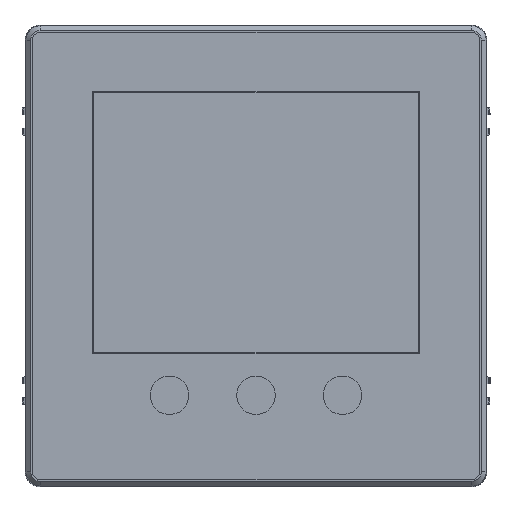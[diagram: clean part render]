
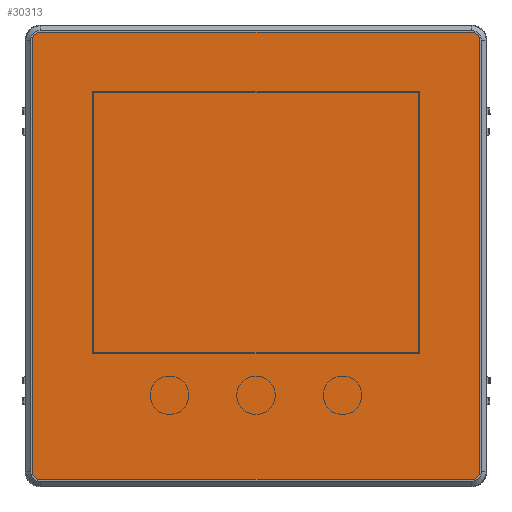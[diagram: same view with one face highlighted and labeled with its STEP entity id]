
A CAD part, top view. The second image highlights one B-rep face of the part: STEP entity #30313.
In plain terms, the highlighted planar face has unit normal (0, 0, 1).
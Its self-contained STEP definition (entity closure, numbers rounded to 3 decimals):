
#409 = VERTEX_POINT ( 'NONE', #1434 ) ;
#413 = VERTEX_POINT ( 'NONE', #1436 ) ;
#421 = VERTEX_POINT ( 'NONE', #1386 ) ;
#441 = VERTEX_POINT ( 'NONE', #1469 ) ;
#443 = VERTEX_POINT ( 'NONE', #1471 ) ;
#467 = VERTEX_POINT ( 'NONE', #1577 ) ;
#491 = VERTEX_POINT ( 'NONE', #1588 ) ;
#617 = VERTEX_POINT ( 'NONE', #1619 ) ;
#1386 = CARTESIAN_POINT ( 'NONE',  ( 46.5, 45., 0.1 ) ) ;
#1434 = CARTESIAN_POINT ( 'NONE',  ( -45., 46.5, 0.1 ) ) ;
#1436 = CARTESIAN_POINT ( 'NONE',  ( 45., 46.5, 0.1 ) ) ;
#1469 = CARTESIAN_POINT ( 'NONE',  ( -45., -46.5, 0.1 ) ) ;
#1471 = CARTESIAN_POINT ( 'NONE',  ( -46.5, -45., 0.1 ) ) ;
#1577 = CARTESIAN_POINT ( 'NONE',  ( 45., -46.5, 0.1 ) ) ;
#1588 = CARTESIAN_POINT ( 'NONE',  ( -46.5, 45., 0.1 ) ) ;
#1619 = CARTESIAN_POINT ( 'NONE',  ( 46.5, -45., 0.1 ) ) ;
#2350 = DIRECTION ( 'NONE',  ( -1., 0., 0. ) ) ;
#2387 = CARTESIAN_POINT ( 'NONE',  ( 45., 45., 0.1 ) ) ;
#2409 = DIRECTION ( 'NONE',  ( 0., 0., -1. ) ) ;
#2428 = PLANE ( 'NONE',  #44720 ) ;
#18524 = CARTESIAN_POINT ( 'NONE',  ( 45., -45., 0.1 ) ) ;
#18525 = DIRECTION ( 'NONE',  ( 0., 0., 1. ) ) ;
#18527 = DIRECTION ( 'NONE',  ( -1., 0., 0. ) ) ;
#20342 = CIRCLE ( 'NONE', #20750, 1.5 ) ;
#20385 = CIRCLE ( 'NONE', #20695, 1.5 ) ;
#20402 = CIRCLE ( 'NONE', #20701, 1.5 ) ;
#20404 = VECTOR ( 'NONE', #21345, 1000. ) ;
#20406 = LINE ( 'NONE', #21344, #20404 ) ;
#20416 = VECTOR ( 'NONE', #21364, 1000. ) ;
#20428 = VECTOR ( 'NONE', #21385, 1000. ) ;
#20440 = LINE ( 'NONE', #21384, #20428 ) ;
#20445 = VECTOR ( 'NONE', #21352, 1000. ) ;
#20456 = CIRCLE ( 'NONE', #20764, 1.5 ) ;
#20460 = LINE ( 'NONE', #21355, #20445 ) ;
#20468 = LINE ( 'NONE', #21377, #20416 ) ;
#20695 = AXIS2_PLACEMENT_3D ( 'NONE', #21287, #21288, #21290 ) ;
#20701 = AXIS2_PLACEMENT_3D ( 'NONE', #21347, #21342, #21340 ) ;
#20750 = AXIS2_PLACEMENT_3D ( 'NONE', #18524, #18525, #18527 ) ;
#20764 = AXIS2_PLACEMENT_3D ( 'NONE', #21351, #21382, #21365 ) ;
#21287 = CARTESIAN_POINT ( 'NONE',  ( 45., 45., 0.1 ) ) ;
#21288 = DIRECTION ( 'NONE',  ( 0., 0., 1. ) ) ;
#21290 = DIRECTION ( 'NONE',  ( -1., 0., 0. ) ) ;
#21340 = DIRECTION ( 'NONE',  ( -1., 0., 0. ) ) ;
#21342 = DIRECTION ( 'NONE',  ( 0., 0., 1. ) ) ;
#21344 = CARTESIAN_POINT ( 'NONE',  ( 45., 46.5, 0.1 ) ) ;
#21345 = DIRECTION ( 'NONE',  ( -1., 0., 0. ) ) ;
#21347 = CARTESIAN_POINT ( 'NONE',  ( -45., 45., 0.1 ) ) ;
#21351 = CARTESIAN_POINT ( 'NONE',  ( -45., -45., 0.1 ) ) ;
#21352 = DIRECTION ( 'NONE',  ( 1., 0., 0. ) ) ;
#21355 = CARTESIAN_POINT ( 'NONE',  ( -45., -46.5, 0.1 ) ) ;
#21364 = DIRECTION ( 'NONE',  ( 0., -1., 0. ) ) ;
#21365 = DIRECTION ( 'NONE',  ( -1., 0., 0. ) ) ;
#21377 = CARTESIAN_POINT ( 'NONE',  ( -46.5, 45., 0.1 ) ) ;
#21382 = DIRECTION ( 'NONE',  ( 0., 0., 1. ) ) ;
#21384 = CARTESIAN_POINT ( 'NONE',  ( 46.5, -45., 0.1 ) ) ;
#21385 = DIRECTION ( 'NONE',  ( 0., 1., 0. ) ) ;
#30313 = ADVANCED_FACE ( 'NONE', ( #44362 ), #2428, .F. ) ;
#35207 = EDGE_LOOP ( 'NONE', ( #38645, #38596, #38603, #38628, #38629, #38622, #38581, #38648 ) ) ;
#37240 = EDGE_CURVE ( 'NONE', #467, #617, #20342, .T. ) ;
#37258 = EDGE_CURVE ( 'NONE', #421, #413, #20385, .T. ) ;
#37261 = EDGE_CURVE ( 'NONE', #409, #491, #20402, .T. ) ;
#37271 = EDGE_CURVE ( 'NONE', #413, #409, #20406, .T. ) ;
#37279 = EDGE_CURVE ( 'NONE', #443, #441, #20456, .T. ) ;
#37284 = EDGE_CURVE ( 'NONE', #491, #443, #20468, .T. ) ;
#37291 = EDGE_CURVE ( 'NONE', #441, #467, #20460, .T. ) ;
#37295 = EDGE_CURVE ( 'NONE', #617, #421, #20440, .T. ) ;
#38581 = ORIENTED_EDGE ( 'NONE', *, *, #37240, .T. ) ;
#38596 = ORIENTED_EDGE ( 'NONE', *, *, #37271, .T. ) ;
#38603 = ORIENTED_EDGE ( 'NONE', *, *, #37261, .T. ) ;
#38622 = ORIENTED_EDGE ( 'NONE', *, *, #37291, .T. ) ;
#38628 = ORIENTED_EDGE ( 'NONE', *, *, #37284, .T. ) ;
#38629 = ORIENTED_EDGE ( 'NONE', *, *, #37279, .T. ) ;
#38645 = ORIENTED_EDGE ( 'NONE', *, *, #37258, .T. ) ;
#38648 = ORIENTED_EDGE ( 'NONE', *, *, #37295, .T. ) ;
#44362 = FACE_OUTER_BOUND ( 'NONE', #35207, .T. ) ;
#44720 = AXIS2_PLACEMENT_3D ( 'NONE', #2387, #2409, #2350 ) ;
